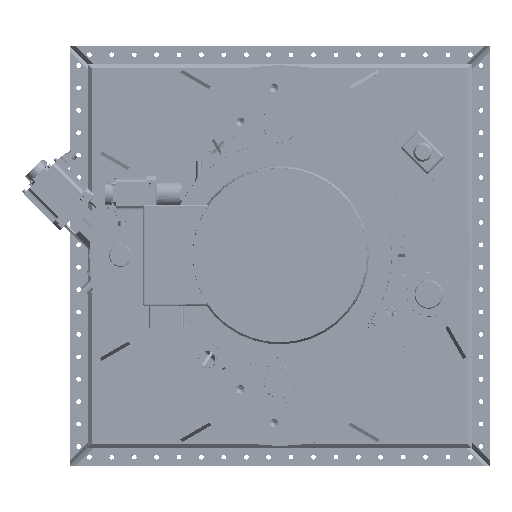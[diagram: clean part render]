
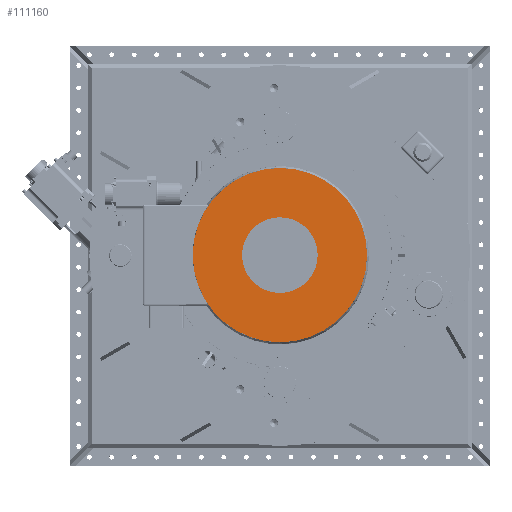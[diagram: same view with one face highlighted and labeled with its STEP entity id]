
A CAD part, top view. The second image highlights one B-rep face of the part: STEP entity #111160.
In plain terms, the highlighted planar face has unit normal (0, 0, 1).
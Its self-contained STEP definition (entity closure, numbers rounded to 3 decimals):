
#21466=FACE_BOUND('',#32651,.T.);
#25843=FACE_OUTER_BOUND('',#32650,.T.);
#32650=EDGE_LOOP('',(#90098));
#32651=EDGE_LOOP('',(#90099));
#38936=CIRCLE('',#121705,311.);
#38937=CIRCLE('',#121706,135.);
#48465=VERTEX_POINT('',#195151);
#48466=VERTEX_POINT('',#195153);
#62689=EDGE_CURVE('',#48465,#48465,#38936,.T.);
#62690=EDGE_CURVE('',#48466,#48466,#38937,.T.);
#90098=ORIENTED_EDGE('',*,*,#62689,.T.);
#90099=ORIENTED_EDGE('',*,*,#62690,.T.);
#100384=PLANE('',#121704);
#111160=ADVANCED_FACE('',(#25843,#21466),#100384,.F.);
#121704=AXIS2_PLACEMENT_3D('',#195150,#148169,#148170);
#121705=AXIS2_PLACEMENT_3D('',#195152,#148171,#148172);
#121706=AXIS2_PLACEMENT_3D('',#195154,#148173,#148174);
#148169=DIRECTION('center_axis',(0.,0.,
-1.));
#148170=DIRECTION('ref_axis',(0.,-1.,0.));
#148171=DIRECTION('center_axis',(0.,0.,
1.));
#148172=DIRECTION('ref_axis',(0.,1.,0.));
#148173=DIRECTION('center_axis',(0.,0.,
-1.));
#148174=DIRECTION('ref_axis',(0.,-1.,0.));
#195150=CARTESIAN_POINT('Origin',(0.,0.,
1803.));
#195151=CARTESIAN_POINT('',(0.,-311.,1803.));
#195152=CARTESIAN_POINT('Origin',(0.,0.,
1803.));
#195153=CARTESIAN_POINT('',(0.,135.,1803.));
#195154=CARTESIAN_POINT('Origin',(0.,0.,
1803.));
